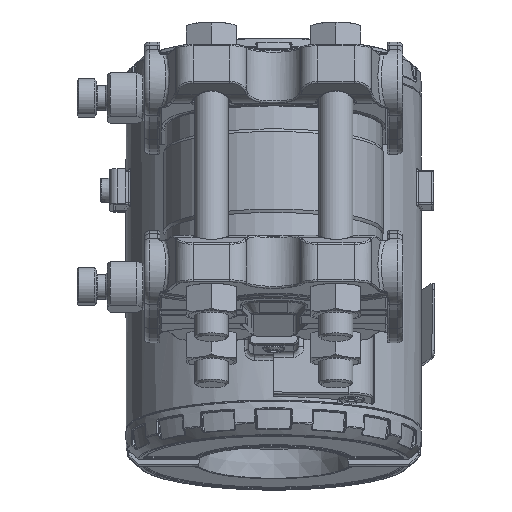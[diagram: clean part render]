
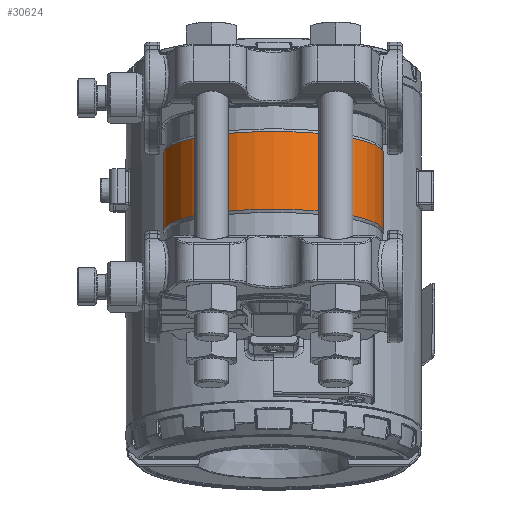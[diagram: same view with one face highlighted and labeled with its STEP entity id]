
A CAD part, left-side view. The second image highlights one B-rep face of the part: STEP entity #30624.
In plain terms, the highlighted cylindrical face has radius 31 mm (diameter 62 mm), a partial arc.
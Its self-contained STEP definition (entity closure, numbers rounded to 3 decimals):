
#1567=CYLINDRICAL_SURFACE('',#33180,31.);
#2449=FACE_OUTER_BOUND('',#4536,.T.);
#4536=EDGE_LOOP('',(#20443,#20444,#20445,#20446,#20447,#20448,#20449,#20450,
#20451,#20452));
#6713=LINE('',#47115,#7877);
#6714=LINE('',#47128,#7878);
#7877=VECTOR('',#37417,10.);
#7878=VECTOR('',#37418,10.);
#9038=CIRCLE('',#33160,31.);
#9041=CIRCLE('',#33163,31.);
#9047=CIRCLE('',#33173,31.);
#9048=CIRCLE('',#33174,31.);
#11514=B_SPLINE_CURVE_WITH_KNOTS('',3,(#47091,#47092,#47093,#47094,#47095),
 .UNSPECIFIED.,.F.,.F.,(4,1,4),(0.57,0.913,1.279),
 .UNSPECIFIED.);
#11516=B_SPLINE_CURVE_WITH_KNOTS('',3,(#47108,#47109,#47110,#47111,#47112,
#47113),.UNSPECIFIED.,.F.,.F.,(4,1,1,4),(0.,0.274,0.548,
0.708),.UNSPECIFIED.);
#11517=B_SPLINE_CURVE_WITH_KNOTS('',3,(#47116,#47117,#47118,#47119,#47120),
 .UNSPECIFIED.,.F.,.F.,(4,1,4),(0.57,0.913,1.279),
 .UNSPECIFIED.);
#11518=B_SPLINE_CURVE_WITH_KNOTS('',3,(#47122,#47123,#47124,#47125,#47126,
#47127),.UNSPECIFIED.,.F.,.F.,(4,1,1,4),(0.,0.274,
0.548,0.708),.UNSPECIFIED.);
#12582=VERTEX_POINT('',#46942);
#12584=VERTEX_POINT('',#46955);
#12585=VERTEX_POINT('',#46966);
#12597=VERTEX_POINT('',#47029);
#12598=VERTEX_POINT('',#47031);
#12599=VERTEX_POINT('',#47043);
#12601=VERTEX_POINT('',#47090);
#12604=VERTEX_POINT('',#47107);
#12605=VERTEX_POINT('',#47114);
#12606=VERTEX_POINT('',#47121);
#15495=EDGE_CURVE('',#12585,#12584,#9038,.T.);
#15499=EDGE_CURVE('',#12582,#12585,#9041,.T.);
#15511=EDGE_CURVE('',#12598,#12597,#9047,.T.);
#15514=EDGE_CURVE('',#12597,#12599,#9048,.T.);
#15518=EDGE_CURVE('',#12582,#12601,#11514,.T.);
#15522=EDGE_CURVE('',#12604,#12584,#11516,.T.);
#15523=EDGE_CURVE('',#12605,#12604,#6713,.T.);
#15524=EDGE_CURVE('',#12598,#12605,#11517,.T.);
#15525=EDGE_CURVE('',#12606,#12599,#11518,.T.);
#15526=EDGE_CURVE('',#12601,#12606,#6714,.T.);
#20443=ORIENTED_EDGE('',*,*,#15499,.T.);
#20444=ORIENTED_EDGE('',*,*,#15495,.T.);
#20445=ORIENTED_EDGE('',*,*,#15522,.F.);
#20446=ORIENTED_EDGE('',*,*,#15523,.F.);
#20447=ORIENTED_EDGE('',*,*,#15524,.F.);
#20448=ORIENTED_EDGE('',*,*,#15511,.T.);
#20449=ORIENTED_EDGE('',*,*,#15514,.T.);
#20450=ORIENTED_EDGE('',*,*,#15525,.F.);
#20451=ORIENTED_EDGE('',*,*,#15526,.F.);
#20452=ORIENTED_EDGE('',*,*,#15518,.F.);
#30624=ADVANCED_FACE('',(#2449),#1567,.T.);
#33160=AXIS2_PLACEMENT_3D('',#46967,#37371,#37372);
#33163=AXIS2_PLACEMENT_3D('',#46973,#37378,#37379);
#33173=AXIS2_PLACEMENT_3D('',#47032,#37400,#37401);
#33174=AXIS2_PLACEMENT_3D('',#47054,#37402,#37403);
#33180=AXIS2_PLACEMENT_3D('',#47106,#37415,#37416);
#37371=DIRECTION('center_axis',(0.,0.,1.));
#37372=DIRECTION('ref_axis',(-1.,0.,0.));
#37378=DIRECTION('center_axis',(0.,0.,1.));
#37379=DIRECTION('ref_axis',(-1.,0.,0.));
#37400=DIRECTION('center_axis',(0.,0.,-1.));
#37401=DIRECTION('ref_axis',(-1.,0.,0.));
#37402=DIRECTION('center_axis',(0.,0.,-1.));
#37403=DIRECTION('ref_axis',(-1.,0.,0.));
#37415=DIRECTION('center_axis',(0.,0.,1.));
#37416=DIRECTION('ref_axis',(-1.,0.,0.));
#37417=DIRECTION('',(0.,0.,-1.));
#37418=DIRECTION('',(0.,0.,1.));
#46942=CARTESIAN_POINT('',(29.591,9.241,-11.134));
#46955=CARTESIAN_POINT('',(29.591,-9.241,-11.134));
#46966=CARTESIAN_POINT('',(-31.,0.,-11.134));
#46967=CARTESIAN_POINT('Origin',(0.,0.,-11.134));
#46973=CARTESIAN_POINT('Origin',(0.,0.,-11.134));
#47029=CARTESIAN_POINT('',(-31.,0.,11.134));
#47031=CARTESIAN_POINT('',(29.591,-9.241,11.134));
#47032=CARTESIAN_POINT('Origin',(0.,0.,11.134));
#47043=CARTESIAN_POINT('',(29.591,9.241,11.134));
#47054=CARTESIAN_POINT('Origin',(0.,0.,11.134));
#47090=CARTESIAN_POINT('',(28.645,11.853,-5.));
#47091=CARTESIAN_POINT('Ctrl Pts',(29.591,9.241,-11.133));
#47092=CARTESIAN_POINT('Ctrl Pts',(29.348,10.019,-10.419));
#47093=CARTESIAN_POINT('Ctrl Pts',(28.86,11.344,-8.57));
#47094=CARTESIAN_POINT('Ctrl Pts',(28.645,11.853,-6.218));
#47095=CARTESIAN_POINT('Ctrl Pts',(28.645,11.853,-5.));
#47106=CARTESIAN_POINT('Origin',(0.,0.,0.));
#47107=CARTESIAN_POINT('',(28.645,-11.853,-5.));
#47108=CARTESIAN_POINT('Ctrl Pts',(28.645,-11.853,-5.));
#47109=CARTESIAN_POINT('Ctrl Pts',(28.645,-11.853,-5.913));
#47110=CARTESIAN_POINT('Ctrl Pts',(28.767,-11.563,-7.738));
#47111=CARTESIAN_POINT('Ctrl Pts',(29.174,-10.51,-9.79));
#47112=CARTESIAN_POINT('Ctrl Pts',(29.477,-9.605,-10.8));
#47113=CARTESIAN_POINT('Ctrl Pts',(29.59,-9.241,-11.134));
#47114=CARTESIAN_POINT('',(28.645,-11.853,5.));
#47115=CARTESIAN_POINT('',(28.645,-11.853,0.));
#47116=CARTESIAN_POINT('Ctrl Pts',(29.591,-9.241,11.133));
#47117=CARTESIAN_POINT('Ctrl Pts',(29.348,-10.019,10.419));
#47118=CARTESIAN_POINT('Ctrl Pts',(28.86,-11.344,8.57));
#47119=CARTESIAN_POINT('Ctrl Pts',(28.645,-11.853,6.218));
#47120=CARTESIAN_POINT('Ctrl Pts',(28.645,-11.853,5.));
#47121=CARTESIAN_POINT('',(28.645,11.853,5.));
#47122=CARTESIAN_POINT('Ctrl Pts',(28.645,11.853,5.));
#47123=CARTESIAN_POINT('Ctrl Pts',(28.645,11.853,5.913));
#47124=CARTESIAN_POINT('Ctrl Pts',(28.767,11.563,7.738));
#47125=CARTESIAN_POINT('Ctrl Pts',(29.174,10.51,9.79));
#47126=CARTESIAN_POINT('Ctrl Pts',(29.477,9.605,10.8));
#47127=CARTESIAN_POINT('Ctrl Pts',(29.59,9.241,11.134));
#47128=CARTESIAN_POINT('',(28.645,11.853,0.));
